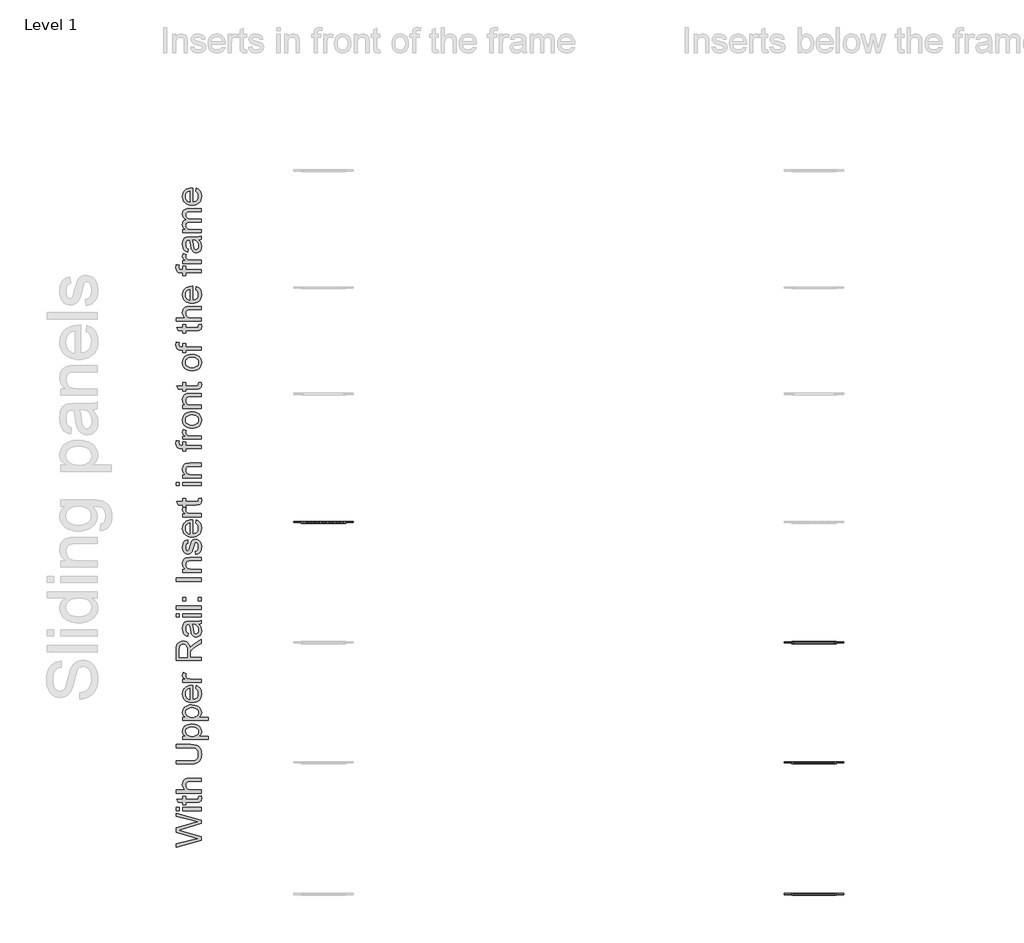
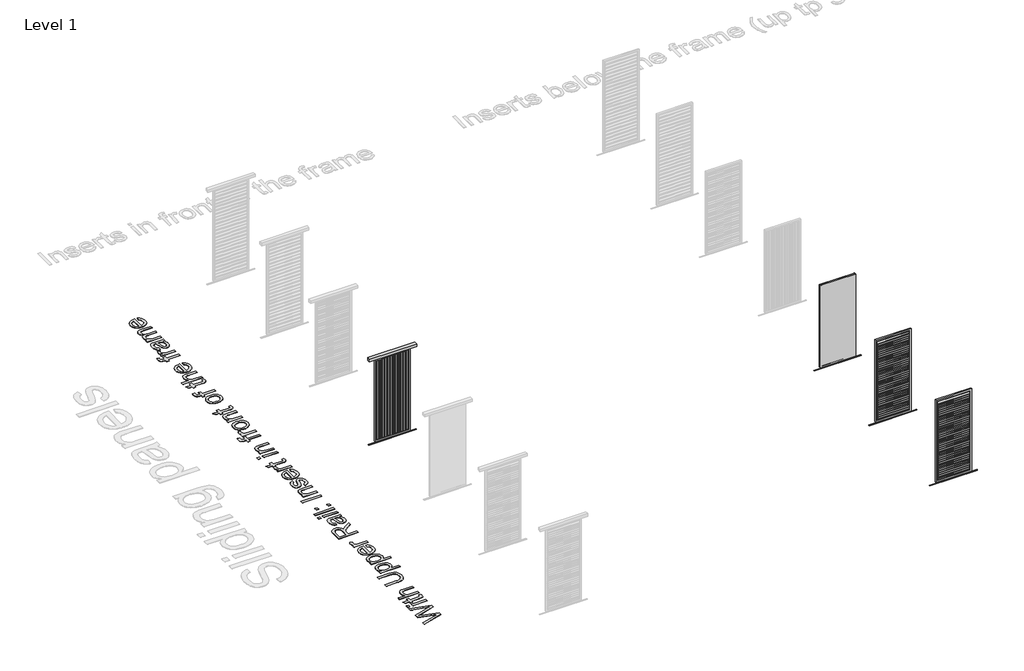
# One storey, part 24 of 80: 5 proxies.
"""IFC4 building model written with IfcOpenShell, lengths in millimetres."""

from ifc_helpers import new_model, si_unit, origin, origin_with_axes, place, context, project, spatial, polyline, outline, extrude, transform, mapped, element, save
from components import generic_models_e979cb0a, generic_models_0f0d1031, generic_models_5eeff375

model = new_model("IFC4")

# Units and contexts
model_context = context("Model", 3, world=origin())
ifc_project = project(units=[si_unit("LENGTHUNIT", "METRE", prefix="MILLI")], contexts=[model_context])

# Site, building, storey
site = spatial("IfcSite", under=ifc_project)
building = spatial("IfcBuilding", under=site)
storey = spatial("IfcBuildingStorey", under=building, Name="Level 1", Elevation=0.0)

# Proxies
placement = place(None, origin())
generic_models_shape = generic_models_e979cb0a(model_context)
element("IfcBuildingElementProxy", 1, Name="Renson_Amani_Loggia_Linea_Sliding : Renson_Amani_Loggia_Linea_Sliding", ObjectType="Renson_Amani_Loggia_Linea_Sliding : Renson_Amani_Loggia_Linea_Sliding", at=placement, inside=storey, context=model_context, shape_type="MappedRepresentation", body=[
    mapped(generic_models_shape, transform((419110.5749426, -56367.7318611, 0.0), x_axis=(1.0, 0.0, 0.0), y_axis=(0.0, 1.0, 0.0), z_axis=(0.0, 0.0, 1.0))),
])
generic_models_2_shape = generic_models_0f0d1031(model_context)
element("IfcBuildingElementProxy", 2, Name="Renson_Amani_Loggia_Canvas_Sliding : Renson_Amani_Loggia_Canvas_Sliding", ObjectType="Renson_Amani_Loggia_Canvas_Sliding : Renson_Amani_Loggia_Canvas_Sliding", at=placement, inside=storey, context=model_context, shape_type="MappedRepresentation", body=[
    mapped(generic_models_2_shape, transform((429010.5749426, -58798.6117458, 0.0), x_axis=(1.0, 0.0, 0.0), y_axis=(0.0, 1.0, 0.0), z_axis=(0.0, 0.0, 1.0))),
])
generic_models_3_shape = generic_models_5eeff375(model_context)
element("IfcBuildingElementProxy", 3, Name="Renson_Amani_Loggia_Paro_Privacy_Aluminium_Sliding : Renson_Amani_Loggia_Paro_Privacy_Aluminium_Sliding", ObjectType="Renson_Amani_Loggia_Paro_Privacy_Aluminium_Sliding : Renson_Amani_Loggia_Paro_Privacy_Aluminium_Sliding", at=placement, inside=storey, context=model_context, shape_type="MappedRepresentation", body=[
    mapped(generic_models_3_shape, transform((429010.5749426, -61223.4916306, 0.0), x_axis=(1.0, 0.0, 0.0), y_axis=(0.0, 1.0, 0.0), z_axis=(0.0, 0.0, 1.0))),
])
element("IfcBuildingElementProxy", 4, Name="Renson_Amani_Loggia_Paro_Privacy_Wood_Sliding : Renson_Amani_Loggia_Paro_Privacy_Wood_Sliding", ObjectType="Renson_Amani_Loggia_Paro_Privacy_Wood_Sliding : Renson_Amani_Loggia_Paro_Privacy_Wood_Sliding", at=placement, inside=storey, context=model_context, shape_type="MappedRepresentation", body=[
    mapped(generic_models_3_shape, transform((429010.5749426, -63882.1776025, 0.0), x_axis=(1.0, 0.0, 0.0), y_axis=(0.0, 1.0, 0.0), z_axis=(0.0, 0.0, 1.0))),
])
element("IfcBuildingElementProxy", 5, Name="500mm Arial", ObjectType="500mm Arial", at=placement, inside=storey, context=model_context, shape_type="SweptSolid", body=[
    extrude(outline(polyline([(416638.2731482, -62789.962909), (416135.9915975, -62926.9376386), (416135.9915975, -62862.1904074), (416466.1043745, -62782.7278965), (416568.0076872, -62758.2024301), (416477.8765983, -62731.9601811), (416135.9915975, -62632.3867878), (416135.9915975, -62539.0673883), (416383.8214349, -62466.7172626), (416475.7919337, -62435.7232045), (416568.0076872, -62412.883864), (416469.0474305, -62389.0941616), (416135.9915975, -62308.8958867), (416135.9915975, -62244.1486555), (416638.2731482, -62381.2460124), (416638.2731482, -62448.3231629), (416250.77078, -62568.7432026), (416196.6921267, -62585.5431471), (416261.8072398, -62604.4277561), (416638.2731482, -62714.179218), (416638.2731482, -62789.962909)])), origin_with_axes(), (0.0, 0.0, 1.0), 5.0),
    extrude(outline(polyline([(416638.2731482, -62189.2116109), (416269.4101344, -62189.2116109), (416269.4101344, -62126.4264171), (416638.2731482, -62126.4264171), (416638.2731482, -62189.2116109)])), origin_with_axes(), (0.0, 0.0, 1.0), 5.0),
    extrude(outline(polyline([(416198.7767913, -62189.2116109), (416135.9915975, -62189.2116109), (416135.9915975, -62126.4264171), (416198.7767913, -62126.4264171), (416198.7767913, -62189.2116109)])), origin_with_axes(), (0.0, 0.0, 1.0), 5.0),
    extrude(outline(polyline([(416585.9112776, -61898.8300894), (416640.1125582, -61890.9819402), (416646.1212975, -61937.9482082), (416643.5154667, -61968.083875), (416635.6979743, -61990.5553335), (416623.6498389, -62006.435573), (416608.3520793, -62016.7975825), (416582.0791735, -62022.4997534), (416537.1055996, -62024.4004771), (416332.1953282, -62024.4004771), (416332.1953282, -62071.4893725), (416269.4101344, -62071.4893725), (416269.4101344, -62024.4004771), (416179.7695549, -62024.4004771), (416142.8587281, -61961.6152832), (416269.4101344, -61961.6152832), (416269.4101344, -61898.8300894), (416332.1953282, -61898.8300894), (416332.1953282, -61961.6152832), (416535.2661896, -61961.6152832), (416567.6398052, -61958.3043453), (416579.1054607, -61947.5744538), (416583.3361036, -61926.1759844), (416585.9112776, -61898.8300894)])), origin_with_axes(), (0.0, 0.0, 1.0), 5.0),
    extrude(outline(polyline([(416638.2731482, -61836.0448955), (416135.9915975, -61836.0448955), (416135.9915975, -61773.2597017), (416320.6683591, -61773.2597017), (416294.8093205, -61750.1980991), (416276.3385786, -61724.3007395), (416265.2561335, -61695.5676228), (416261.5619852, -61663.9987491), (416265.5933587, -61626.0762468), (416277.6874793, -61593.4880334), (416296.8939851, -61567.8282642), (416322.2625144, -61550.6910946), (416357.1193334, -61541.0341922), (416404.7907086, -61537.8152248), (416638.2731482, -61537.8152248), (416638.2731482, -61600.6004186), (416411.2899572, -61600.6004186), (416371.9878974, -61605.5974824), (416356.9813777, -61611.8438121), (416345.0711981, -61620.5886737), (416336.0044397, -61631.6251336), (416329.5281838, -61644.7462581), (416324.347179, -61677.242501), (416327.842058, -61703.7759899), (416338.3266948, -61728.6846666), (416354.7894141, -61749.3167152), (416376.2185403, -61763.0203195), (416404.6987381, -61770.6998562), (416442.3146721, -61773.2597017), (416638.2731482, -61773.2597017), (416638.2731482, -61836.0448955)])), origin_with_axes(), (0.0, 0.0, 1.0), 5.0),
    extrude(outline(polyline([(416135.9915975, -60917.8114356), (416135.9915975, -60855.0262417), (416425.7599824, -60855.0262417), (416493.618882, -60859.2875415), (416545.8734538, -60872.0714409), (416567.0649895, -60882.3031588), (416586.1871891, -60895.9531137), (416603.2400524, -60913.0213054), (416618.2235795, -60933.507734), (416630.4288311, -60957.4353922), (416639.146868, -60984.8272724), (416644.3776901, -61015.6833747), (416646.1212975, -61050.0036992), (416644.6037842, -61083.4771286), (416640.0512445, -61113.7545833), (416632.4636784, -61140.8360631), (416621.8410858, -61164.721568), (416608.340583, -61185.4149302), (416592.1192863, -61202.9199818), (416573.1771956, -61217.2367228), (416551.514311, -61228.3651532), (416526.3872043, -61236.7076438), (416497.0524473, -61242.6665657), (416425.7599824, -61247.4337033), (416135.9915975, -61247.4337033), (416135.9915975, -61184.6485094), (416423.5526904, -61184.6485094), (416479.9765914, -61181.5521693), (416519.2633228, -61172.2631489), (416546.471262, -61155.4325476), (416566.6587865, -61129.7114648), (416579.1667743, -61096.1728896), (416583.3361036, -61055.8898111), (416581.2744316, -61021.2859109), (416575.0894156, -60992.0316281), (416564.7810555, -60968.1269626), (416550.3493514, -60949.5719145), (416530.054528, -60935.676705), (416502.15681, -60925.7515553), (416466.6561975, -60919.7964655), (416423.5526904, -60917.8114356), (416135.9915975, -60917.8114356)])), origin_with_axes(), (0.0, 0.0, 1.0), 5.0),
    extrude(outline(polyline([(416779.5398344, -60753.0003017), (416269.4101344, -60753.0003017), (416269.4101344, -60690.2151079), (416330.9690549, -60690.2151079), (416300.6034619, -60669.7363435), (416278.9137526, -60646.8050325), (416265.899927, -60620.0722742), (416261.5619852, -60588.1891679), (416263.0794984, -60566.292525), (416267.6320381, -60545.7294543), (416275.2196042, -60526.4999558), (416285.8421969, -60508.6040296), (416299.2239044, -60492.4325502), (416315.0888155, -60478.3763923), (416354.268248, -60456.610041), (416400.5294088, -60443.4582596), (416451.0212127, -60439.0743325), (416504.7166556, -60444.025411), (416552.7405844, -60458.8786466), (416574.0164264, -60469.899778), (416592.6557808, -60483.1588583), (416608.6586476, -60498.6558873), (416622.0250268, -60516.3908652), (416640.0972298, -60555.0951168), (416646.1212975, -60595.7920625), (416642.0899239, -60624.6554707), (416629.9958033, -60650.4225388), (416611.7396593, -60672.4801301), (416589.2222155, -60690.2151079), (416779.5398344, -60690.2151079), (416779.5398344, -60753.0003017)]), holes=[polyline([(416456.7846973, -60690.2151079), (416487.0429914, -60688.5174858), (416513.0706425, -60683.4246194), (416534.8676508, -60674.9365088), (416552.434016, -60663.0531539), (416565.9536793, -60648.7479093), (416575.6105817, -60632.9941292), (416581.4047231, -60615.7918139), (416583.3361036, -60597.1409631), (416581.3357453, -60578.2218651), (416575.3346702, -60560.7053172), (416565.3328785, -60544.5913194), (416551.33037, -60529.8798717), (416533.1278755, -60517.6209706), (416510.5261254, -60508.8646127), (416483.5251198, -60503.610798), (416452.1248587, -60501.8595264), (416422.1271477, -60503.5686448), (416396.1454817, -60508.6960001), (416374.1798609, -60517.2415923), (416356.2302853, -60529.2054213), (416342.2814263, -60543.545155), (416332.3179556, -60559.2184608), (416326.3398732, -60576.2253389), (416324.347179, -60594.5657892), (416326.4663326, -60612.8487579), (416332.8237933, -60630.0510733), (416343.4195612, -60646.1727353), (416358.2536362, -60661.213744), (416377.126749, -60673.9018407), (416399.8396301, -60682.9647669), (416426.3922795, -60688.4025227), (416456.7846973, -60690.2151079)])]), origin_with_axes(), (0.0, 0.0, 1.0), 5.0),
    extrude(outline(polyline([(416779.5398344, -60368.4409895), (416269.4101344, -60368.4409895), (416269.4101344, -60305.6557956), (416330.9690549, -60305.6557956), (416300.6034619, -60285.1770312), (416278.9137526, -60262.2457202), (416265.899927, -60235.5129619), (416261.5619852, -60203.6298556), (416263.0794984, -60181.7332127), (416267.6320381, -60161.170142), (416275.2196042, -60141.9406436), (416285.8421969, -60124.0447173), (416299.2239044, -60107.873238), (416315.0888155, -60093.8170801), (416354.268248, -60072.0507287), (416400.5294088, -60058.8989473), (416451.0212127, -60054.5150202), (416504.7166556, -60059.4660988), (416552.7405844, -60074.3193343), (416574.0164264, -60085.3404658), (416592.6557808, -60098.599546), (416608.6586476, -60114.096575), (416622.0250268, -60131.8315529), (416640.0972298, -60170.5358045), (416646.1212975, -60211.2327502), (416642.0899239, -60240.0961584), (416629.9958033, -60265.8632265), (416611.7396593, -60287.9208178), (416589.2222155, -60305.6557956), (416779.5398344, -60305.6557956), (416779.5398344, -60368.4409895)]), holes=[polyline([(416456.7846973, -60305.6557956), (416487.0429914, -60303.9581735), (416513.0706425, -60298.8653071), (416534.8676508, -60290.3771965), (416552.434016, -60278.4938416), (416565.9536793, -60264.188597), (416575.6105817, -60248.4348169), (416581.4047231, -60231.2325016), (416583.3361036, -60212.5816508), (416581.3357453, -60193.6625528), (416575.3346702, -60176.1460049), (416565.3328785, -60160.0320071), (416551.33037, -60145.3205594), (416533.1278755, -60133.0616583), (416510.5261254, -60124.3053004), (416483.5251198, -60119.0514857), (416452.1248587, -60117.3002141), (416422.1271477, -60119.0093325), (416396.1454817, -60124.1366878), (416374.1798609, -60132.68228), (416356.2302853, -60144.6461091), (416342.2814263, -60158.9858427), (416332.3179556, -60174.6591485), (416326.3398732, -60191.6660266), (416324.347179, -60210.0064769), (416326.4663326, -60228.2894456), (416332.8237933, -60245.491761), (416343.4195612, -60261.613423), (416358.2536362, -60276.6544317), (416377.126749, -60289.3425284), (416399.8396301, -60298.4054546), (416426.3922795, -60303.8432104), (416456.7846973, -60305.6557956)])]), origin_with_axes(), (0.0, 0.0, 1.0), 5.0),
    extrude(outline(polyline([(416528.399059, -59725.6285166), (416536.2472082, -59664.069596), (416560.9029661, -59673.5080685), (416582.6309965, -59686.2498147), (416601.4312993, -59702.2948346), (416617.3038745, -59721.6431283), (416629.9114971, -59744.0954263), (416638.9169417, -59769.4524592), (416644.3202085, -59797.7142271), (416646.1212975, -59828.8807299), (416643.013461, -59867.8379003), (416633.6899517, -59902.5490994), (416618.1507695, -59933.0143271), (416596.3959144, -59959.2335835), (416569.030859, -59980.3178203), (416536.6610755, -59995.3779895), (416499.286564, -60004.414091), (416456.9073246, -60007.4261249), (416413.0910461, -60004.3834342), (416374.4711009, -59995.2553622), (416341.0474888, -59980.0419088), (416312.8202098, -59958.7430742), (416290.3947365, -59932.5927957), (416274.3765413, -59902.8250109), (416264.7656242, -59869.4397198), (416261.5619852, -59832.4369225), (416264.75796, -59796.6259095), (416274.3458845, -59764.2407976), (416290.3257587, -59735.2815868), (416312.6975825, -59709.7482771), (416340.8635478, -59688.9054628), (416374.2258462, -59674.0177383), (416412.7844778, -59665.0851036), (416456.5394426, -59662.1075587), (416473.4620144, -59662.4754407), (416473.4620144, -59944.640931), (416498.5163111, -59941.0042642), (416520.4589393, -59933.7730837), (416539.2898989, -59922.9473896), (416555.00919, -59908.5271818), (416567.4022147, -59891.309538), (416576.2543752, -59872.0915359), (416581.5656715, -59850.8731754), (416583.3361036, -59827.6544565), (416580.0558225, -59794.2385087), (416570.2149791, -59766.095536), (416553.2004368, -59743.2255387), (416528.399059, -59725.6285166)]), holes=[polyline([(416410.6768206, -59944.640931), (416410.6768206, -59724.8927526), (416377.5061273, -59733.3846953), (416353.7777386, -59750.0313556), (416340.9018688, -59767.1531968), (416331.7048189, -59786.6356141), (416326.186589, -59808.4786075), (416324.347179, -59832.6821771), (416330.2179625, -59875.003935), (416337.5564419, -59893.4171953), (416347.830313, -59909.9987098), (416360.564395, -59923.9130798), (416375.2835069, -59934.3249067), (416391.9876488, -59941.2341905), (416410.6768206, -59944.640931)])]), origin_with_axes(), (0.0, 0.0, 1.0), 5.0),
    extrude(outline(polyline([(416638.2731482, -59599.3223649), (416269.4101344, -59599.3223649), (416269.4101344, -59544.3853203), (416323.979297, -59544.3853203), (416292.3414454, -59524.0904969), (416273.702091, -59505.3898288), (416264.5970116, -59486.627847), (416261.5619852, -59466.1490826), (416266.4057648, -59434.879113), (416280.9371036, -59403.1186341), (416337.2230488, -59424.0879078), (416327.5661465, -59446.1608275), (416324.347179, -59468.2337473), (416327.4435191, -59486.9804006), (416336.7325395, -59503.7343598), (416351.509133, -59517.2693515), (416371.0681924, -59526.3591025), (416406.1396093, -59533.9926539), (416444.3993368, -59536.537171), (416638.2731482, -59536.537171), (416638.2731482, -59599.3223649)])), origin_with_axes(), (0.0, 0.0, 1.0), 5.0),
    extrude(outline(polyline([(416638.2731482, -59159.826008), (416135.9915975, -59159.826008), (416135.9915975, -58943.3887675), (416139.3791775, -58885.217427), (416149.5419176, -58842.8956691), (416168.3038994, -58811.9629247), (416197.4892043, -58787.9586245), (416233.6795956, -58772.553566), (416273.4568363, -58767.4185464), (416299.2545613, -58769.5453642), (416322.9369647, -58775.9258176), (416344.5040467, -58786.5599065), (416363.9558072, -58801.447631), (416380.6714453, -58820.7805963), (416394.0301603, -58844.7504075), (416404.031952, -58873.3570647), (416410.6768206, -58906.600568), (416424.1964839, -58885.9072057), (416437.5322062, -58870.9160144), (416502.15681, -58820.0256718), (416638.2731482, -58736.2712042), (416638.2731482, -58809.2344666), (416534.1625436, -58874.5948344), (416465.2459832, -58921.8063571), (416445.1504292, -58939.3573939), (416432.6884266, -58954.9770503), (416420.7322618, -58984.8368056), (416418.5249698, -59021.2571231), (416418.5249698, -59097.0408141), (416638.2731482, -59097.0408141), (416638.2731482, -59159.826008)]), holes=[polyline([(416355.7397759, -59097.0408141), (416355.7397759, -58956.509892), (416353.5171555, -58916.1501714), (416346.8492944, -58884.8342166), (416335.2916684, -58861.259112), (416318.3997534, -58844.1219424), (416297.9669743, -58833.6832908), (416275.7867557, -58830.2037403), (416259.7302394, -58831.8630414), (416245.1605796, -58836.8409446), (416232.0777761, -58845.13745), (416220.481829, -58856.7525576), (416210.985875, -58871.9545146), (416204.2030508, -58891.0115684), (416198.7767913, -58940.6909662), (416198.7767913, -59097.0408141), (416355.7397759, -59097.0408141)])]), origin_with_axes(), (0.0, 0.0, 1.0), 5.0),
    extrude(outline(polyline([(416591.1842529, -58429.9481295), (416616.9053357, -58459.9458406), (416633.735937, -58490.8325997), (416643.0249573, -58523.3135142), (416646.1212975, -58558.0936912), (416644.2588949, -58586.0488907), (416638.6716871, -58610.5628608), (416629.3596741, -58631.6356013), (416616.3228559, -58649.2671123), (416600.3889669, -58663.1891466), (416582.3857418, -58673.1334568), (416562.3131804, -58679.1000429), (416540.1712829, -58681.0889049), (416514.1436317, -58678.0845353), (416490.5072135, -58669.0714264), (416470.2737038, -58655.1685527), (416454.454778, -58637.4948885), (416442.4986131, -58616.7248842), (416433.8533862, -58593.5329901), (416424.4110817, -58539.2090821), (416414.4782678, -58475.0136739), (416402.8286713, -58430.3160115), (416388.8491555, -58429.9481295), (416360.8288102, -58434.270743), (416342.4960241, -58447.2385833), (416334.5559044, -58460.3137226), (416328.8843903, -58476.2399473), (416324.347179, -58516.6456531), (416327.3668771, -58554.0469892), (416336.4259712, -58580.1666109), (416353.1799304, -58597.9782308), (416379.2842236, -58610.4555618), (416371.4360744, -58673.2407557), (416337.1004215, -58662.3422516), (416310.1224085, -58646.0788017), (416289.49036, -58622.9328928), (416274.1926003, -58591.3870118), (416264.719639, -58552.8053875), (416261.5619852, -58508.5522492), (416264.351757, -58466.107864), (416272.7210724, -58432.4619898), (416285.3057023, -58407.0934606), (416300.7414177, -58389.4811101), (416319.8252962, -58377.8008567), (416343.3544154, -58370.228619), (416398.29146, -58367.1629357), (416476.4050704, -58367.1629357), (416585.4820819, -58363.9746251), (416612.4447665, -58359.2534728), (416638.2731482, -58351.4666372), (416638.2731482, -58414.2518311), (416616.4454832, -58424.3072723), (416591.1842529, -58429.9481295)]), holes=[polyline([(416465.6138652, -58429.9481295), (416476.0678452, -58472.1319317), (416484.8663562, -58531.2383055), (416495.0444248, -58585.2556452), (416502.0035259, -58599.3118031), (416511.5991146, -58609.7197978), (416523.0954269, -58616.1577328), (416535.7566989, -58618.3037111), (416554.4267102, -58613.628544), (416569.7244698, -58599.603043), (416579.9331952, -58576.5337762), (416583.3361036, -58544.727312), (416579.5806416, -58511.0047958), (416568.3142555, -58481.2063542), (416551.7135805, -58457.0487698), (416531.9552516, -58440.2488254), (416511.5991146, -58432.799215), (416483.3948283, -58430.3160115), (416465.6138652, -58429.9481295)])]), origin_with_axes(), (0.0, 0.0, 1.0), 5.0),
    extrude(outline(polyline([(416638.2731482, -58280.8332942), (416269.4101344, -58280.8332942), (416269.4101344, -58218.0481003), (416638.2731482, -58218.0481003), (416638.2731482, -58280.8332942)])), origin_with_axes(), (0.0, 0.0, 1.0), 5.0),
    extrude(outline(polyline([(416198.7767913, -58280.8332942), (416135.9915975, -58280.8332942), (416135.9915975, -58218.0481003), (416198.7767913, -58218.0481003), (416198.7767913, -58280.8332942)])), origin_with_axes(), (0.0, 0.0, 1.0), 5.0),
    extrude(outline(polyline([(416638.2731482, -58123.8703096), (416135.9915975, -58123.8703096), (416135.9915975, -58061.0851157), (416638.2731482, -58061.0851157), (416638.2731482, -58123.8703096)])), origin_with_axes(), (0.0, 0.0, 1.0), 5.0),
    extrude(outline(polyline([(416638.2731482, -57951.2110265), (416575.4879544, -57951.2110265), (416575.4879544, -57888.4258326), (416638.2731482, -57888.4258326), (416638.2731482, -57951.2110265)])), origin_with_axes(), (0.0, 0.0, 1.0), 5.0),
    extrude(outline(polyline([(416332.1953282, -57951.2110265), (416269.4101344, -57951.2110265), (416269.4101344, -57888.4258326), (416332.1953282, -57888.4258326), (416332.1953282, -57951.2110265)])), origin_with_axes(), (0.0, 0.0, 1.0), 5.0),
    extrude(outline(polyline([(416638.2731482, -57558.803565), (416135.9915975, -57558.803565), (416135.9915975, -57496.0183711), (416638.2731482, -57496.0183711), (416638.2731482, -57558.803565)])), origin_with_axes(), (0.0, 0.0, 1.0), 5.0),
    extrude(outline(polyline([(416638.2731482, -57378.2961327), (416269.4101344, -57378.2961327), (416269.4101344, -57315.5109388), (416320.9136137, -57315.5109388), (416294.9472762, -57293.6986022), (416276.3998923, -57267.5023384), (416265.271462, -57236.9221476), (416261.5619852, -57201.9580296), (416264.5510264, -57171.0099568), (416273.51815, -57142.6677147), (416287.3443817, -57119.0312966), (416304.9107469, -57102.2006953), (416326.1712606, -57090.781025), (416351.0799373, -57083.3773999), (416411.7804665, -57080.0664619), (416638.2731482, -57080.0664619), (416638.2731482, -57142.8516557), (416420.2417524, -57142.8516557), (416387.7761664, -57144.6604089), (416364.6915712, -57150.0866683), (416348.1522098, -57160.0961243), (416335.3223252, -57175.654467), (416327.0909656, -57195.5967368), (416324.347179, -57218.7579741), (416325.8876849, -57237.8226921), (416330.5092024, -57255.5308452), (416338.2117317, -57271.8824335), (416348.9952727, -57286.8774569), (416364.0860987, -57299.4046052), (416384.7104831, -57308.3525683), (416410.8684258, -57313.7213462), (416442.5599268, -57315.5109388), (416638.2731482, -57315.5109388), (416638.2731482, -57378.2961327)])), origin_with_axes(), (0.0, 0.0, 1.0), 5.0),
    extrude(outline(polyline([(416528.399059, -57017.2812681), (416520.5509098, -56954.4960742), (416547.4062954, -56944.5939172), (416567.1492958, -56925.4333966), (416579.2894017, -56896.8918851), (416583.3361036, -56858.8467555), (416579.6266268, -56821.2614783), (416568.4981965, -56794.8352883), (416552.3727024, -56779.2003035), (416533.6720343, -56773.9886419), (416517.6691675, -56779.2309603), (416505.467748, -56794.9579156), (416487.5641575, -56859.5825195), (416470.9941393, -56916.8801402), (416456.8460109, -56954.1281922), (416441.4102956, -56978.0558503), (416420.9775164, -56995.3922893), (416396.8505889, -57005.9229115), (416370.3324284, -57009.4331188), (416346.0062315, -57006.6126902), (416323.5501014, -56998.1514043), (416303.8530862, -56984.815682), (416287.8042342, -56967.371944), (416277.7028077, -56950.035505), (416269.2261934, -56927.4567476), (416263.4780372, -56901.3524543), (416261.5619852, -56873.4394079), (416264.6429969, -56832.5738496), (416273.886032, -56797.0425803), (416288.386714, -56768.470412), (416307.2406662, -56748.4821569), (416331.8427747, -56735.2384051), (416363.5879252, -56726.8997465), (416371.4360744, -56789.6849404), (416351.6777456, -56797.6097317), (416336.7938532, -56813.2907017), (416327.4588476, -56836.8811347), (416324.347179, -56868.5343147), (416327.3208918, -56904.5867502), (416336.2420302, -56928.6217072), (416349.1179, -56942.1413705), (416363.9558072, -56946.647925), (416373.6127095, -56944.7778582), (416382.2272796, -56939.1676577), (416389.9221447, -56929.572069), (416396.0841681, -56915.7458374), (416409.4505472, -56861.6671841), (416439.0037342, -56769.5127443), (416453.1365342, -56745.171219), (416472.4809957, -56726.7158055), (416497.0984326, -56715.0815374), (416527.0501584, -56711.2034481), (416558.0135596, -56715.7559878), (416587.1375509, -56729.4136068), (416612.1381982, -56751.6551391), (416630.7315673, -56781.9594185), (416642.2738649, -56818.563677), (416646.1212975, -56859.7051468), (416644.2665591, -56893.4966409), (416638.7023439, -56923.0115068), (416629.4286519, -56948.2497445), (416616.4454832, -56969.211354), (416599.8141513, -56986.3331952), (416579.59597, -57000.052128), (416555.7909392, -57010.3681522), (416528.399059, -57017.2812681)])), origin_with_axes(), (0.0, 0.0, 1.0), 5.0),
    extrude(outline(polyline([(416528.399059, -56382.3169444), (416536.2472082, -56320.7580239), (416560.9029661, -56330.1964963), (416582.6309965, -56342.9382425), (416601.4312993, -56358.9832624), (416617.3038745, -56378.3315561), (416629.9114971, -56400.7838541), (416638.9169417, -56426.1408871), (416644.3202085, -56454.4026549), (416646.1212975, -56485.5691577), (416643.013461, -56524.5263281), (416633.6899517, -56559.2375272), (416618.1507695, -56589.702755), (416596.3959144, -56615.9220113), (416569.030859, -56637.0062482), (416536.6610755, -56652.0664173), (416499.286564, -56661.1025189), (416456.9073246, -56664.1145527), (416413.0910461, -56661.071862), (416374.4711009, -56651.94379), (416341.0474888, -56636.7303367), (416312.8202098, -56615.431502), (416290.3947365, -56589.2812235), (416274.3765413, -56559.5134387), (416264.7656242, -56526.1281477), (416261.5619852, -56489.1253503), (416264.75796, -56453.3143373), (416274.3458845, -56420.9292255), (416290.3257587, -56391.9700147), (416312.6975825, -56366.4367049), (416340.8635478, -56345.5938906), (416374.2258462, -56330.7061661), (416412.7844778, -56321.7735314), (416456.5394426, -56318.7959865), (416473.4620144, -56319.1638685), (416473.4620144, -56601.3293588), (416498.5163111, -56597.692692), (416520.4589393, -56590.4615116), (416539.2898989, -56579.6358174), (416555.00919, -56565.2156097), (416567.4022147, -56547.9979659), (416576.2543752, -56528.7799637), (416581.5656715, -56507.5616032), (416583.3361036, -56484.3428844), (416580.0558225, -56450.9269365), (416570.2149791, -56422.7839639), (416553.2004368, -56399.9139665), (416528.399059, -56382.3169444)]), holes=[polyline([(416410.6768206, -56601.3293588), (416410.6768206, -56381.5811804), (416377.5061273, -56390.0731231), (416353.7777386, -56406.7197834), (416340.9018688, -56423.8416246), (416331.7048189, -56443.3240419), (416326.186589, -56465.1670354), (416324.347179, -56489.370605), (416330.2179625, -56531.6923628), (416337.5564419, -56550.1056231), (416347.830313, -56566.6871376), (416360.564395, -56580.6015077), (416375.2835069, -56591.0133346), (416391.9876488, -56597.9226183), (416410.6768206, -56601.3293588)])]), origin_with_axes(), (0.0, 0.0, 1.0), 5.0),
    extrude(outline(polyline([(416585.9112776, -55887.1477789), (416640.1125582, -55879.2996296), (416646.1212975, -55926.2658977), (416643.5154667, -55956.4015645), (416635.6979743, -55978.873023), (416623.6498389, -55994.7532625), (416608.3520793, -56005.115272), (416582.0791735, -56010.8174429), (416537.1055996, -56012.7181666), (416332.1953282, -56012.7181666), (416332.1953282, -56059.8070619), (416280.9371036, -56059.8070619), (416269.4101344, -56059.8070619), (416269.4101344, -56012.7181666), (416179.7695549, -56012.7181666), (416142.8587281, -55949.9329727), (416269.4101344, -55949.9329727), (416269.4101344, -55887.1477789), (416332.1953282, -55887.1477789), (416332.1953282, -55949.9329727), (416535.2661896, -55949.9329727), (416567.6398052, -55946.6220348), (416579.1054607, -55935.8921432), (416583.3361036, -55914.4936739), (416585.9112776, -55887.1477789)])), origin_with_axes(), (0.0, 0.0, 1.0), 5.0),
    extrude(outline(polyline([(416638.2731482, -56256.0107927), (416269.4101344, -56256.0107927), (416269.4101344, -56201.0737481), (416323.979297, -56201.0737481), (416292.3414454, -56180.7789247), (416273.702091, -56162.0782566), (416264.5970116, -56143.3162749), (416261.5619852, -56122.8375105), (416266.4057648, -56091.5675409), (416280.9371036, -56059.8070619), (416337.2230488, -56080.7763357), (416327.5661465, -56102.8492554), (416324.347179, -56124.9221751), (416327.4435191, -56143.6688284), (416336.7325395, -56160.4227876), (416351.509133, -56173.9577794), (416371.0681924, -56183.0475303), (416406.1396093, -56190.6810817), (416444.3993368, -56193.2255989), (416638.2731482, -56193.2255989), (416638.2731482, -56256.0107927)])), origin_with_axes(), (0.0, 0.0, 1.0), 5.0),
    extrude(outline(polyline([(416198.7767913, -55628.1588543), (416135.9915975, -55628.1588543), (416135.9915975, -55565.3736604), (416198.7767913, -55565.3736604), (416198.7767913, -55628.1588543)])), origin_with_axes(), (0.0, 0.0, 1.0), 5.0),
    extrude(outline(polyline([(416638.2731482, -55628.1588543), (416269.4101344, -55628.1588543), (416269.4101344, -55565.3736604), (416638.2731482, -55565.3736604), (416638.2731482, -55628.1588543)])), origin_with_axes(), (0.0, 0.0, 1.0), 5.0),
    extrude(outline(polyline([(416638.2731482, -55471.1958697), (416269.4101344, -55471.1958697), (416269.4101344, -55408.4106758), (416320.9136137, -55408.4106758), (416294.9472762, -55386.5983392), (416276.3998923, -55360.4020754), (416265.271462, -55329.8218846), (416261.5619852, -55294.8577666), (416264.5510264, -55263.9096938), (416273.51815, -55235.5674518), (416287.3443817, -55211.9310336), (416304.9107469, -55195.1004323), (416326.1712606, -55183.680762), (416351.0799373, -55176.2771369), (416411.7804665, -55172.9661989), (416638.2731482, -55172.9661989), (416638.2731482, -55235.7513927), (416420.2417524, -55235.7513927), (416387.7761664, -55237.5601459), (416364.6915712, -55242.9864053), (416348.1522098, -55252.9958613), (416335.3223252, -55268.554204), (416327.0909656, -55288.4964738), (416324.347179, -55311.6577111), (416325.8876849, -55330.7224291), (416330.5092024, -55348.4305822), (416338.2117317, -55364.7821705), (416348.9952727, -55379.7771939), (416364.0860987, -55392.3043422), (416384.7104831, -55401.2523053), (416410.8684258, -55406.6210832), (416442.5599268, -55408.4106758), (416638.2731482, -55408.4106758), (416638.2731482, -55471.1958697)])), origin_with_axes(), (0.0, 0.0, 1.0), 5.0),
    extrude(outline(polyline([(416638.2731482, -54874.7365281), (416332.1953282, -54874.7365281), (416332.1953282, -54929.6735728), (416269.4101344, -54929.6735728), (416269.4101344, -54874.7365281), (416232.2540529, -54874.7365281), (416201.5052495, -54873.0810592), (416179.8921822, -54868.1146522), (416159.014879, -54855.4840371), (416142.4908461, -54835.9862913), (416131.7302977, -54808.70171), (416128.1434483, -54772.7105882), (416135.0105788, -54715.4436242), (416193.8716981, -54724.6406741), (416190.9286421, -54760.815737), (416193.5344729, -54784.6820814), (416201.3519653, -54800.3630515), (416216.2818429, -54809.0542636), (416240.2248295, -54811.9513343), (416269.4101344, -54811.9513343), (416269.4101344, -54741.3179912), (416332.1953282, -54741.3179912), (416332.1953282, -54811.9513343), (416638.2731482, -54811.9513343), (416638.2731482, -54874.7365281)])), origin_with_axes(), (0.0, 0.0, 1.0), 5.0),
    extrude(outline(polyline([(416638.2731482, -54686.3809466), (416269.4101344, -54686.3809466), (416269.4101344, -54631.443902), (416323.979297, -54631.443902), (416292.3414454, -54611.1490786), (416273.702091, -54592.4484105), (416264.5970116, -54573.6864288), (416261.5619852, -54553.2076644), (416266.4057648, -54521.9376948), (416280.9371036, -54490.1772159), (416337.2230488, -54511.1464896), (416327.5661465, -54533.2194093), (416324.347179, -54555.292329), (416327.4435191, -54574.0389823), (416336.7325395, -54590.7929415), (416351.509133, -54604.3279333), (416371.0681924, -54613.4176842), (416406.1396093, -54621.0512356), (416444.3993368, -54623.5957528), (416638.2731482, -54623.5957528), (416638.2731482, -54686.3809466)])), origin_with_axes(), (0.0, 0.0, 1.0), 5.0),
    extrude(outline(polyline([(416453.8416413, -54466.6327682), (416406.0706314, -54463.2375239), (416364.906169, -54453.0517912), (416330.3482541, -54436.0755699), (416302.3968866, -54412.3088602), (416284.5316172, -54388.3812021), (416271.7707105, -54361.9703405), (416264.1141665, -54333.0762755), (416261.5619852, -54301.699007), (416264.6698216, -54267.0606179), (416273.9933309, -54235.7408309), (416289.5325131, -54207.7396462), (416311.2873682, -54183.0570636), (416338.5221321, -54162.9116922), (416370.501041, -54148.5221413), (416407.2240947, -54139.8884107), (416448.6912934, -54137.0105005), (416512.1202807, -54142.0995348), (416538.1555961, -54148.4608276), (416560.4047926, -54157.3666376), (416579.6227947, -54168.7058336), (416596.564527, -54182.3672848), (416611.2299895, -54198.3509911), (416623.6191821, -54216.6569524), (416640.4957686, -54257.384555), (416646.1212975, -54301.699007), (416643.0249573, -54336.8432338), (416633.735937, -54368.4542607), (416618.2542363, -54396.5320876), (416596.5798554, -54421.0767144), (416569.0806763, -54441.0074879), (416536.1245809, -54455.2437547), (416497.7115692, -54463.7855148), (416453.8416413, -54466.6327682)]), holes=[polyline([(416453.719014, -54403.8475743), (416484.1727454, -54402.031157), (416510.5414538, -54396.5819049), (416532.8251393, -54387.4998182), (416551.0238017, -54374.7848967), (416565.1604338, -54359.3185245), (416575.2580281, -54341.9820855), (416581.3165848, -54322.7755796), (416583.3361036, -54301.699007), (416581.3050884, -54280.7297333), (416575.2120429, -54261.5998695), (416565.056967, -54244.3094157), (416550.8398607, -54228.858372), (416532.4610894, -54216.1434505), (416509.8210183, -54207.0613637), (416482.9196474, -54201.6121117), (416451.7569767, -54199.7956943), (416422.2689355, -54201.623608), (416396.5900058, -54207.107349), (416374.7201876, -54216.2469173), (416356.6594809, -54229.0423129), (416342.5228488, -54244.5508383), (416332.4252545, -54261.8297958), (416326.3666979, -54280.8791853), (416324.347179, -54301.699007), (416326.3590337, -54322.7755796), (416332.3945977, -54341.9820855), (416342.453871, -54359.3185245), (416356.5368536, -54374.7848967), (416374.6818666, -54387.4998182), (416396.927231, -54396.5819049), (416423.2729468, -54402.031157), (416453.719014, -54403.8475743)])]), origin_with_axes(), (0.0, 0.0, 1.0), 5.0),
    extrude(outline(polyline([(416638.2731482, -54066.3771574), (416269.4101344, -54066.3771574), (416269.4101344, -54003.5919636), (416320.9136137, -54003.5919636), (416294.9472762, -53981.7796269), (416276.3998923, -53955.5833632), (416265.271462, -53925.0031724), (416261.5619852, -53890.0390544), (416264.5510264, -53859.0909815), (416273.51815, -53830.7487395), (416287.3443817, -53807.1123213), (416304.9107469, -53790.28172), (416326.1712606, -53778.8620498), (416351.0799373, -53771.4584246), (416411.7804665, -53768.1474867), (416638.2731482, -53768.1474867), (416638.2731482, -53830.9326805), (416420.2417524, -53830.9326805), (416387.7761664, -53832.7414336), (416364.6915712, -53838.1676931), (416348.1522098, -53848.177149), (416335.3223252, -53863.7354917), (416327.0909656, -53883.6777616), (416324.347179, -53906.8389988), (416325.8876849, -53925.9037168), (416330.5092024, -53943.6118699), (416338.2117317, -53959.9634582), (416348.9952727, -53974.9584816), (416364.0860987, -53987.48563), (416384.7104831, -53996.4335931), (416410.8684258, -54001.8023709), (416442.5599268, -54003.5919636), (416638.2731482, -54003.5919636), (416638.2731482, -54066.3771574)])), origin_with_axes(), (0.0, 0.0, 1.0), 5.0),
    extrude(outline(polyline([(416585.9112776, -53548.3993082), (416640.1125582, -53540.551159), (416646.1212975, -53587.517427), (416643.5154667, -53617.6530938), (416635.6979743, -53640.1245523), (416623.6498389, -53656.0047918), (416608.3520793, -53666.3668013), (416582.0791735, -53672.0689723), (416537.1055996, -53673.9696959), (416332.1953282, -53673.9696959), (416332.1953282, -53721.0585913), (416269.4101344, -53721.0585913), (416269.4101344, -53673.9696959), (416179.7695549, -53673.9696959), (416142.8587281, -53611.184502), (416269.4101344, -53611.184502), (416269.4101344, -53548.3993082), (416332.1953282, -53548.3993082), (416332.1953282, -53611.184502), (416535.2661896, -53611.184502), (416567.6398052, -53607.8735641), (416579.1054607, -53597.1436726), (416583.3361036, -53575.7452032), (416585.9112776, -53548.3993082)])), origin_with_axes(), (0.0, 0.0, 1.0), 5.0),
    extrude(outline(polyline([(416453.8416413, -53305.1066821), (416406.0706314, -53301.7114378), (416364.906169, -53291.5257051), (416330.3482541, -53274.5494838), (416302.3968866, -53250.7827741), (416284.5316172, -53226.855116), (416271.7707105, -53200.4442544), (416264.1141665, -53171.5501894), (416261.5619852, -53140.1729209), (416264.6698216, -53105.5345318), (416273.9933309, -53074.2147448), (416289.5325131, -53046.2135601), (416311.2873682, -53021.5309774), (416338.5221321, -53001.3856061), (416370.501041, -52986.9960551), (416407.2240947, -52978.3623246), (416448.6912934, -52975.4844144), (416512.1202807, -52980.5734486), (416538.1555961, -52986.9347415), (416560.4047926, -52995.8405514), (416579.6227947, -53007.1797475), (416596.564527, -53020.8411987), (416611.2299895, -53036.824905), (416623.6191821, -53055.1308663), (416640.4957686, -53095.8584689), (416646.1212975, -53140.1729209), (416643.0249573, -53175.3171477), (416633.735937, -53206.9281746), (416618.2542363, -53235.0060015), (416596.5798554, -53259.5506283), (416569.0806763, -53279.4814018), (416536.1245809, -53293.7176686), (416497.7115692, -53302.2594287), (416453.8416413, -53305.1066821)]), holes=[polyline([(416453.719014, -53242.3214882), (416484.1727454, -53240.5050709), (416510.5414538, -53235.0558188), (416532.8251393, -53225.9737321), (416551.0238017, -53213.2588106), (416565.1604338, -53197.7924384), (416575.2580281, -53180.4559994), (416581.3165848, -53161.2494935), (416583.3361036, -53140.1729209), (416581.3050884, -53119.2036472), (416575.2120429, -53100.0737834), (416565.056967, -53082.7833296), (416550.8398607, -53067.3322858), (416532.4610894, -53054.6173644), (416509.8210183, -53045.5352776), (416482.9196474, -53040.0860256), (416451.7569767, -53038.2696082), (416422.2689355, -53040.0975219), (416396.5900058, -53045.5812629), (416374.7201876, -53054.7208312), (416356.6594809, -53067.5162268), (416342.5228488, -53083.0247522), (416332.4252545, -53100.3037097), (416326.3666979, -53119.3530992), (416324.347179, -53140.1729209), (416326.3590337, -53161.2494935), (416332.3945977, -53180.4559994), (416342.453871, -53197.7924384), (416356.5368536, -53213.2588106), (416374.6818666, -53225.9737321), (416396.927231, -53235.0558188), (416423.2729468, -53240.5050709), (416453.719014, -53242.3214882)])]), origin_with_axes(), (0.0, 0.0, 1.0), 5.0),
    extrude(outline(polyline([(416638.2731482, -52889.1547728), (416332.1953282, -52889.1547728), (416332.1953282, -52944.0918175), (416269.4101344, -52944.0918175), (416269.4101344, -52889.1547728), (416232.2540529, -52889.1547728), (416201.5052495, -52887.4993039), (416179.8921822, -52882.5328969), (416159.014879, -52869.9022818), (416142.4908461, -52850.404536), (416131.7302977, -52823.1199547), (416128.1434483, -52787.1288329), (416135.0105788, -52729.8618689), (416193.8716981, -52739.0589188), (416190.9286421, -52775.2339817), (416193.5344729, -52799.1003261), (416201.3519653, -52814.7812962), (416216.2818429, -52823.4725083), (416240.2248295, -52826.369579), (416269.4101344, -52826.369579), (416269.4101344, -52755.7362359), (416332.1953282, -52755.7362359), (416332.1953282, -52826.369579), (416638.2731482, -52826.369579), (416638.2731482, -52889.1547728)])), origin_with_axes(), (0.0, 0.0, 1.0), 5.0),
    extrude(outline(polyline([(416585.9112776, -52371.1769236), (416640.1125582, -52363.3287744), (416646.1212975, -52410.2950425), (416643.5154667, -52440.4307092), (416635.6979743, -52462.9021678), (416623.6498389, -52478.7824072), (416608.3520793, -52489.1444168), (416582.0791735, -52494.8465877), (416537.1055996, -52496.7473113), (416332.1953282, -52496.7473113), (416332.1953282, -52543.8362067), (416269.4101344, -52543.8362067), (416269.4101344, -52496.7473113), (416179.7695549, -52496.7473113), (416142.8587281, -52433.9621175), (416269.4101344, -52433.9621175), (416269.4101344, -52371.1769236), (416332.1953282, -52371.1769236), (416332.1953282, -52433.9621175), (416535.2661896, -52433.9621175), (416567.6398052, -52430.6511795), (416579.1054607, -52419.921288), (416583.3361036, -52398.5228186), (416585.9112776, -52371.1769236)])), origin_with_axes(), (0.0, 0.0, 1.0), 5.0),
    extrude(outline(polyline([(416638.2731482, -52308.3917298), (416135.9915975, -52308.3917298), (416135.9915975, -52245.606536), (416320.6683591, -52245.606536), (416294.8093205, -52222.5449334), (416276.3385786, -52196.6475738), (416265.2561335, -52167.9144571), (416261.5619852, -52136.3455834), (416265.5933587, -52098.423081), (416277.6874793, -52065.8348676), (416296.8939851, -52040.1750985), (416322.2625144, -52023.0379289), (416357.1193334, -52013.3810265), (416404.7907086, -52010.162059), (416638.2731482, -52010.162059), (416638.2731482, -52072.9472529), (416411.2899572, -52072.9472529), (416371.9878974, -52077.9443167), (416356.9813777, -52084.1906464), (416345.0711981, -52092.935508), (416336.0044397, -52103.9719678), (416329.5281838, -52117.0930923), (416324.347179, -52149.5893352), (416327.842058, -52176.1228241), (416338.3266948, -52201.0315009), (416354.7894141, -52221.6635494), (416376.2185403, -52235.3671538), (416404.6987381, -52243.0466904), (416442.3146721, -52245.606536), (416638.2731482, -52245.606536), (416638.2731482, -52308.3917298)])), origin_with_axes(), (0.0, 0.0, 1.0), 5.0),
    extrude(outline(polyline([(416528.399059, -51665.5792569), (416536.2472082, -51604.0203364), (416560.9029661, -51613.4588088), (416582.6309965, -51626.200555), (416601.4312993, -51642.2455749), (416617.3038745, -51661.5938686), (416629.9114971, -51684.0461666), (416638.9169417, -51709.4031996), (416644.3202085, -51737.6649674), (416646.1212975, -51768.8314702), (416643.013461, -51807.7886407), (416633.6899517, -51842.4998397), (416618.1507695, -51872.9650675), (416596.3959144, -51899.1843238), (416569.030859, -51920.2685607), (416536.6610755, -51935.3287299), (416499.286564, -51944.3648314), (416456.9073246, -51947.3768652), (416413.0910461, -51944.3341745), (416374.4711009, -51935.2061025), (416341.0474888, -51919.9926492), (416312.8202098, -51898.6938145), (416290.3947365, -51872.543536), (416274.3765413, -51842.7757512), (416264.7656242, -51809.3904602), (416261.5619852, -51772.3876628), (416264.75796, -51736.5766499), (416274.3458845, -51704.191538), (416290.3257587, -51675.2323272), (416312.6975825, -51649.6990174), (416340.8635478, -51628.8562031), (416374.2258462, -51613.9684787), (416412.7844778, -51605.035844), (416456.5394426, -51602.0582991), (416473.4620144, -51602.4261811), (416473.4620144, -51884.5916714), (416498.5163111, -51880.9550045), (416520.4589393, -51873.7238241), (416539.2898989, -51862.8981299), (416555.00919, -51848.4779222), (416567.4022147, -51831.2602784), (416576.2543752, -51812.0422762), (416581.5656715, -51790.8239157), (416583.3361036, -51767.6051969), (416580.0558225, -51734.189249), (416570.2149791, -51706.0462764), (416553.2004368, -51683.176279), (416528.399059, -51665.5792569)]), holes=[polyline([(416410.6768206, -51884.5916714), (416410.6768206, -51664.8434929), (416377.5061273, -51673.3354356), (416353.7777386, -51689.9820959), (416340.9018688, -51707.1039371), (416331.7048189, -51726.5863544), (416326.186589, -51748.4293479), (416324.347179, -51772.6329175), (416330.2179625, -51814.9546753), (416337.5564419, -51833.3679356), (416347.830313, -51849.9494501), (416360.564395, -51863.8638202), (416375.2835069, -51874.2756471), (416391.9876488, -51881.1849308), (416410.6768206, -51884.5916714)])]), origin_with_axes(), (0.0, 0.0, 1.0), 5.0),
    extrude(outline(polyline([(416638.2731482, -51327.373076), (416332.1953282, -51327.373076), (416332.1953282, -51382.3101206), (416269.4101344, -51382.3101206), (416269.4101344, -51327.373076), (416232.2540529, -51327.373076), (416201.5052495, -51325.717607), (416179.8921822, -51320.7512001), (416159.014879, -51308.1205849), (416142.4908461, -51288.6228392), (416131.7302977, -51261.3382579), (416128.1434483, -51225.347136), (416135.0105788, -51168.0801721), (416193.8716981, -51177.277222), (416190.9286421, -51213.4522848), (416193.5344729, -51237.3186293), (416201.3519653, -51252.9995993), (416216.2818429, -51261.6908114), (416240.2248295, -51264.5878821), (416269.4101344, -51264.5878821), (416269.4101344, -51193.9545391), (416332.1953282, -51193.9545391), (416332.1953282, -51264.5878821), (416638.2731482, -51264.5878821), (416638.2731482, -51327.373076)])), origin_with_axes(), (0.0, 0.0, 1.0), 5.0),
    extrude(outline(polyline([(416638.2731482, -51139.0174945), (416269.4101344, -51139.0174945), (416269.4101344, -51084.0804498), (416323.979297, -51084.0804498), (416292.3414454, -51063.7856264), (416273.702091, -51045.0849584), (416264.5970116, -51026.3229766), (416261.5619852, -51005.8442122), (416266.4057648, -50974.5742426), (416280.9371036, -50942.8137637), (416337.2230488, -50963.7830374), (416327.5661465, -50985.8559571), (416324.347179, -51007.9288768), (416327.4435191, -51026.6755302), (416336.7325395, -51043.4294894), (416351.509133, -51056.9644811), (416371.0681924, -51066.0542321), (416406.1396093, -51073.6877835), (416444.3993368, -51076.2323006), (416638.2731482, -51076.2323006), (416638.2731482, -51139.0174945)])), origin_with_axes(), (0.0, 0.0, 1.0), 5.0),
    extrude(outline(polyline([(416591.1842529, -50668.1285406), (416616.9053357, -50698.1262517), (416633.735937, -50729.0130108), (416643.0249573, -50761.4939253), (416646.1212975, -50796.2741023), (416644.2588949, -50824.2293018), (416638.6716871, -50848.7432718), (416629.3596741, -50869.8160124), (416616.3228559, -50887.4475234), (416600.3889669, -50901.3695577), (416582.3857418, -50911.3138679), (416562.3131804, -50917.280454), (416540.1712829, -50919.269316), (416514.1436317, -50916.2649464), (416490.5072135, -50907.2518375), (416470.2737038, -50893.3489638), (416454.454778, -50875.6752996), (416442.4986131, -50854.9052953), (416433.8533862, -50831.7134012), (416424.4110817, -50777.3894932), (416414.4782678, -50713.194085), (416402.8286713, -50668.4964226), (416388.8491555, -50668.1285406), (416360.8288102, -50672.4511541), (416342.4960241, -50685.4189944), (416334.5559044, -50698.4941337), (416328.8843903, -50714.4203584), (416324.347179, -50754.8260642), (416327.3668771, -50792.2274003), (416336.4259712, -50818.347022), (416353.1799304, -50836.1586419), (416379.2842236, -50848.6359729), (416371.4360744, -50911.4211668), (416337.1004215, -50900.5226627), (416310.1224085, -50884.2592128), (416289.49036, -50861.1133039), (416274.1926003, -50829.5674229), (416264.719639, -50790.9857986), (416261.5619852, -50746.7326603), (416264.351757, -50704.2882751), (416272.7210724, -50670.6424009), (416285.3057023, -50645.2738717), (416300.7414177, -50627.6615212), (416319.8252962, -50615.9812678), (416343.3544154, -50608.4090301), (416398.29146, -50605.3433468), (416476.4050704, -50605.3433468), (416585.4820819, -50602.1550362), (416612.4447665, -50597.4338839), (416638.2731482, -50589.6470483), (416638.2731482, -50652.4322422), (416616.4454832, -50662.4876834), (416591.1842529, -50668.1285406)]), holes=[polyline([(416465.6138652, -50668.1285406), (416476.0678452, -50710.3123427), (416484.8663562, -50769.4187166), (416495.0444248, -50823.4360563), (416502.0035259, -50837.4922142), (416511.5991146, -50847.9002089), (416523.0954269, -50854.3381439), (416535.7566989, -50856.4841222), (416554.4267102, -50851.8089551), (416569.7244698, -50837.7834541), (416579.9331952, -50814.7141873), (416583.3361036, -50782.9077231), (416579.5806416, -50749.1852069), (416568.3142555, -50719.3867653), (416551.7135805, -50695.2291809), (416531.9552516, -50678.4292365), (416511.5991146, -50670.9796261), (416483.3948283, -50668.4964226), (416465.6138652, -50668.1285406)])]), origin_with_axes(), (0.0, 0.0, 1.0), 5.0),
    extrude(outline(polyline([(416638.2731482, -50519.0137053), (416269.4101344, -50519.0137053), (416269.4101344, -50456.2285114), (416330.1106636, -50456.2285114), (416302.2282741, -50437.3439023), (416280.3852806, -50413.0636906), (416266.267809, -50384.2156109), (416261.5619852, -50351.6273975), (416266.3597795, -50316.7092647), (416280.7531626, -50288.7195763), (416303.7917725, -50267.8116162), (416334.5252475, -50254.1386687), (416302.6038203, -50231.2533429), (416279.8028008, -50205.1490497), (416266.1221891, -50175.825789), (416261.5619852, -50143.2835608), (416263.4588767, -50118.1487899), (416269.1495513, -50096.0873666), (416278.634009, -50077.0992907), (416291.9122498, -50061.1845623), (416309.1375578, -50048.6037644), (416330.4632172, -50039.6174803), (416355.889228, -50034.2257098), (416385.4155902, -50032.428453), (416638.2731482, -50032.428453), (416638.2731482, -50095.2136468), (416412.3936032, -50095.2136468), (416381.0776484, -50096.6698464), (416359.9704189, -50101.0384451), (416345.5157222, -50109.2238195), (416334.1573656, -50122.1303461), (416326.7997256, -50138.7310212), (416324.347179, -50157.9988407), (416325.9183417, -50175.7913001), (416330.6318298, -50192.0125968), (416338.4876432, -50206.6627308), (416349.485782, -50219.7417022), (416363.948143, -50230.4984184), (416382.1966228, -50238.1817872), (416404.2312214, -50242.7918084), (416430.051939, -50244.3284822), (416638.2731482, -50244.3284822), (416638.2731482, -50307.113676), (416405.4038453, -50307.113676), (416369.9032328, -50310.7465107), (416344.5806888, -50321.6450148), (416335.7285282, -50330.0718118), (416329.4055564, -50340.8208638), (416324.347179, -50369.2857332), (416327.7194306, -50393.4739744), (416337.8361855, -50415.7614919), (416354.452189, -50434.1555917), (416377.3221863, -50446.6635795), (416409.0520084, -50453.8372784), (416452.247486, -50456.2285114), (416638.2731482, -50456.2285114), (416638.2731482, -50519.0137053)])), origin_with_axes(), (0.0, 0.0, 1.0), 5.0),
    extrude(outline(polyline([(416528.399059, -49679.9975016), (416536.2472082, -49618.4385811), (416560.9029661, -49627.8770535), (416582.6309965, -49640.6187997), (416601.4312993, -49656.6638196), (416617.3038745, -49676.0121133), (416629.9114971, -49698.4644113), (416638.9169417, -49723.8214443), (416644.3202085, -49752.0832121), (416646.1212975, -49783.2497149), (416643.013461, -49822.2068854), (416633.6899517, -49856.9180844), (416618.1507695, -49887.3833122), (416596.3959144, -49913.6025685), (416569.030859, -49934.6868054), (416536.6610755, -49949.7469746), (416499.286564, -49958.7830761), (416456.9073246, -49961.7951099), (416413.0910461, -49958.7524192), (416374.4711009, -49949.6243472), (416341.0474888, -49934.4108939), (416312.8202098, -49913.1120592), (416290.3947365, -49886.9617807), (416274.3765413, -49857.1939959), (416264.7656242, -49823.8087049), (416261.5619852, -49786.8059075), (416264.75796, -49750.9948946), (416274.3458845, -49718.6097827), (416290.3257587, -49689.6505719), (416312.6975825, -49664.1172621), (416340.8635478, -49643.2744478), (416374.2258462, -49628.3867233), (416412.7844778, -49619.4540887), (416456.5394426, -49616.4765438), (416473.4620144, -49616.8444258), (416473.4620144, -49899.0099161), (416498.5163111, -49895.3732492), (416520.4589393, -49888.1420688), (416539.2898989, -49877.3163746), (416555.00919, -49862.8961669), (416567.4022147, -49845.6785231), (416576.2543752, -49826.4605209), (416581.5656715, -49805.2421604), (416583.3361036, -49782.0234416), (416580.0558225, -49748.6074937), (416570.2149791, -49720.4645211), (416553.2004368, -49697.5945237), (416528.399059, -49679.9975016)]), holes=[polyline([(416410.6768206, -49899.0099161), (416410.6768206, -49679.2617376), (416377.5061273, -49687.7536803), (416353.7777386, -49704.4003406), (416340.9018688, -49721.5221818), (416331.7048189, -49741.0045991), (416326.186589, -49762.8475926), (416324.347179, -49787.0511622), (416330.2179625, -49829.37292), (416337.5564419, -49847.7861803), (416347.830313, -49864.3676948), (416360.564395, -49878.2820649), (416375.2835069, -49888.6938918), (416391.9876488, -49895.6031755), (416410.6768206, -49899.0099161)])]), origin_with_axes(), (0.0, 0.0, 1.0), 5.0),
])

save(model, "model.ifc")
